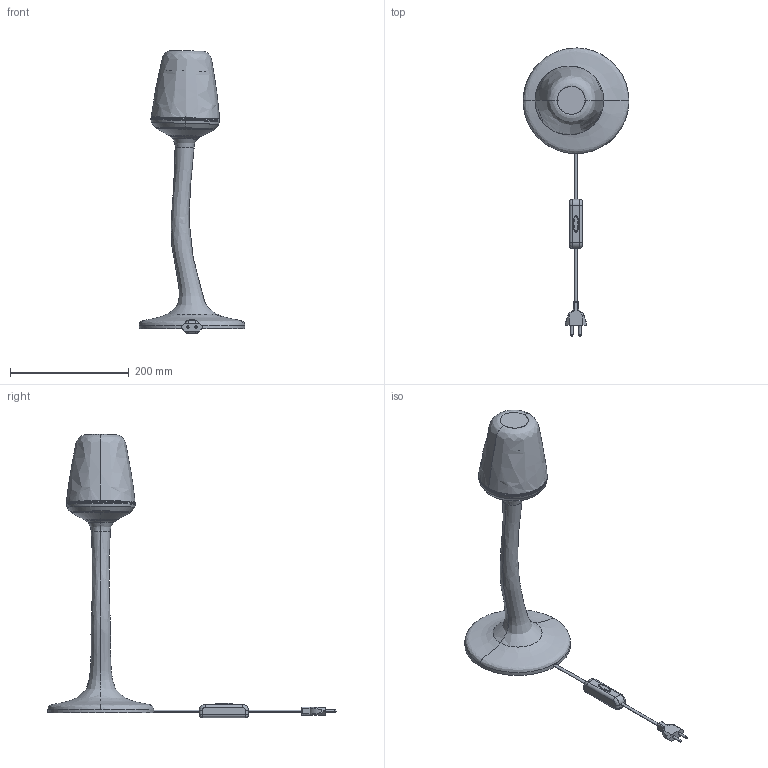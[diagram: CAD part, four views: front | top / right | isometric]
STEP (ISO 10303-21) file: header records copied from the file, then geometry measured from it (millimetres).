
FILE_DESCRIPTION(/* description */ (''),/* implementation_level */ '2;1');
FILE_NAME(/* name */ 'Mushroom Table CE',/* time_stamp */ '2019-02-05T07:41:37+01:00',/* author */ (''),/* organization */ (''),/* preprocessor_version */ 'ST-DEVELOPER v15',/* originating_system */ '',/* authorisation */ '');
FILE_SCHEMA (('AUTOMOTIVE_DESIGN'));
Length unit declared in the file: millimetre
Products named in the file (3): Document; Block 02; Block 01
Assembly tree (2 placements, depth 2):
  Document
    Block 02
    Block 01
Bounding box: 178.41 x 486.32 x 478 mm (x, y, z)
Volume: 82102.9 mm3; surface area: 293148.2 mm2
Topology: 4 solids, 11 shells, 227 faces, 633 edges, 405 vertices
Faces by surface type: bspline 192, plane 35
Entity records: 17570 total; most frequent: CARTESIAN_POINT 14169, ORIENTED_EDGE 1195, EDGE_CURVE 621, VERTEX_POINT 405, EDGE_LOOP 233, ADVANCED_FACE 227, FACE_OUTER_BOUND 227, B_SPLINE_CURVE_WITH_KNOTS 167
